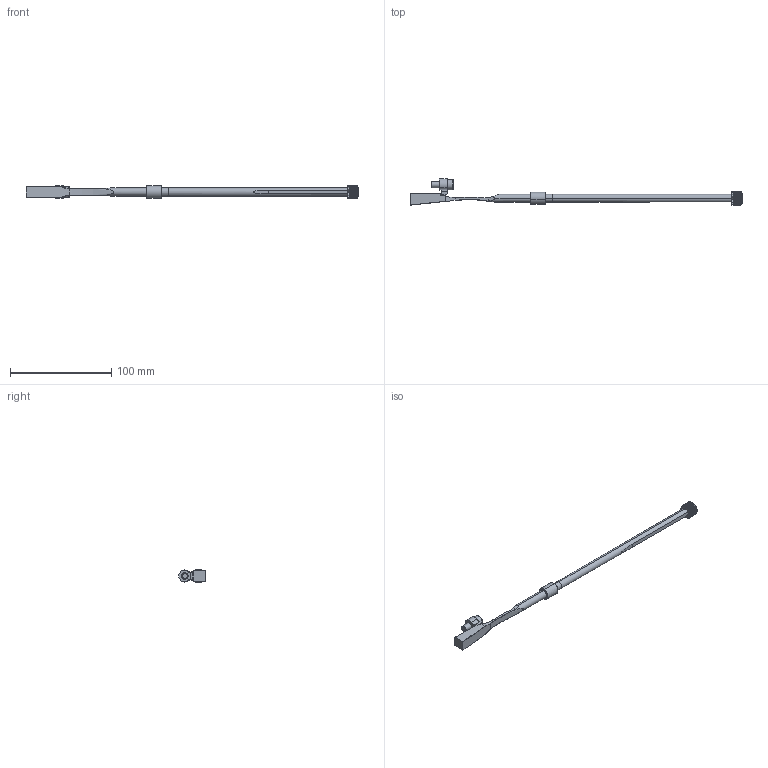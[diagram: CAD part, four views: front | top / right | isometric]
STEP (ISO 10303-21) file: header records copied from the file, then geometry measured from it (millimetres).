
FILE_DESCRIPTION (( 'STEP AP214' ), '1' );
FILE_NAME ('PX081030-325.STEP', '2020-02-10T09:53:17', ( '' ), ( '' ), 'SwSTEP 2.0', 'SolidWorks 2018', '' );
FILE_SCHEMA (( 'AUTOMOTIVE_DESIGN' ));
Length unit declared in the file: millimetre
Products named in the file (10): 9PX-TOPE; 9AX080184 rectificado plano; 8PX081030 Rosca Mecha cerrada; 9CS081215; PX081030-325; 1DIN912616_DIN 912 M6 x 16 --- 16C; 9TP0810HX; JT ﾘ8X1,5; 9PX081030-325; 9TP0810HX-1
Assembly tree (9 placements, depth 3):
  PX081030-325
    9PX081030-325
      9AX080184 rectificado plano
      8PX081030 Rosca Mecha cerrada
    1DIN912616_DIN 912 M6 x 16 --- 16C
    9PX-TOPE
    9TP0810HX
      9TP0810HX-1
      JT ﾘ8X1,5
    9CS081215
Bounding box: 328.5 x 26.4 x 13.8 mm (x, y, z)
Volume: 19895.2 mm3; surface area: 13203.5 mm2
Topology: 7 solids, 7 shells, 468 faces, 1267 edges, 812 vertices
Faces by surface type: plane 237, cylinder 155, cone 40, torus 23, bspline 9, sphere 4
Entity records: 16197 total; most frequent: CARTESIAN_POINT 4548, ORIENTED_EDGE 2518, DIRECTION 2145, EDGE_CURVE 1259, AXIS2_PLACEMENT_3D 844, VERTEX_POINT 812, EDGE_LOOP 483, ADVANCED_FACE 468
